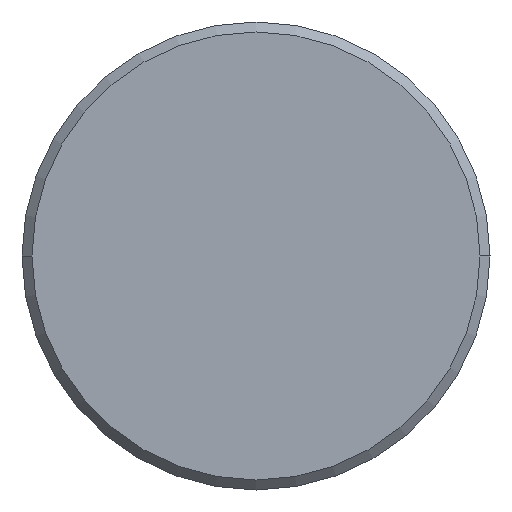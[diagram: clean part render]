
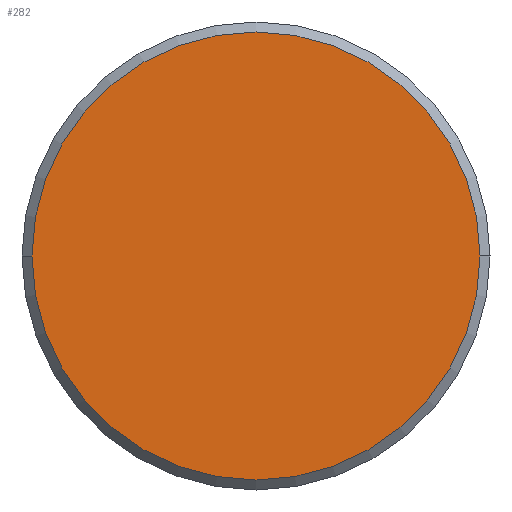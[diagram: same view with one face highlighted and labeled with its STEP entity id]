
A CAD part, left-side view. The second image highlights one B-rep face of the part: STEP entity #282.
In plain terms, the highlighted planar face has unit normal (-1, 0, 0).
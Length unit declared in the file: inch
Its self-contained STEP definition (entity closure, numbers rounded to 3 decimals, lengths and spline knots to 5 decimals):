
#33 = DIRECTION ( 'NONE',  ( 0., -1., 0. ) ) ;
#50 = AXIS2_PLACEMENT_3D ( 'NONE', #351, #220, #33 ) ;
#56 = ORIENTED_EDGE ( 'NONE', *, *, #286, .T. ) ;
#77 = AXIS2_PLACEMENT_3D ( 'NONE', #216, #119, #292 ) ;
#106 = CIRCLE ( 'NONE', #319, 0.08975 ) ;
#107 = ORIENTED_EDGE ( 'NONE', *, *, #324, .T. ) ;
#116 = CARTESIAN_POINT ( 'NONE',  ( 0., 0.08975, 0. ) ) ;
#119 = DIRECTION ( 'NONE',  ( -1., 0., 0. ) ) ;
#127 = EDGE_LOOP ( 'NONE', ( #107, #56 ) ) ;
#170 = CARTESIAN_POINT ( 'NONE',  ( 0., 0., 0. ) ) ;
#209 = FACE_OUTER_BOUND ( 'NONE', #127, .T. ) ;
#216 = CARTESIAN_POINT ( 'NONE',  ( 0., 0., 0. ) ) ;
#220 = DIRECTION ( 'NONE',  ( -1., 0., 0. ) ) ;
#233 = CARTESIAN_POINT ( 'NONE',  ( 0., -0.08975, 0. ) ) ;
#245 = PLANE ( 'NONE',  #50 ) ;
#255 = VERTEX_POINT ( 'NONE', #116 ) ;
#282 = ADVANCED_FACE ( 'NONE', ( #209 ), #245, .T. ) ;
#286 = EDGE_CURVE ( 'NONE', #332, #255, #345, .T. ) ;
#292 = DIRECTION ( 'NONE',  ( 0., -1., 0. ) ) ;
#318 = DIRECTION ( 'NONE',  ( -1., 0., 0. ) ) ;
#319 = AXIS2_PLACEMENT_3D ( 'NONE', #170, #318, #365 ) ;
#324 = EDGE_CURVE ( 'NONE', #255, #332, #106, .T. ) ;
#332 = VERTEX_POINT ( 'NONE', #233 ) ;
#345 = CIRCLE ( 'NONE', #77, 0.08975 ) ;
#351 = CARTESIAN_POINT ( 'NONE',  ( 0., 0., 0. ) ) ;
#365 = DIRECTION ( 'NONE',  ( 0., -1., 0. ) ) ;
